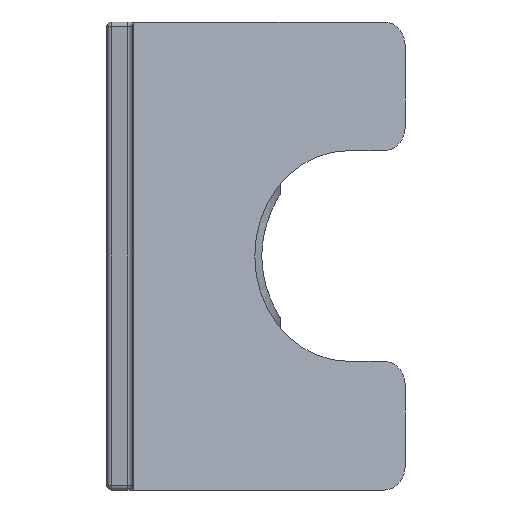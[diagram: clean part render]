
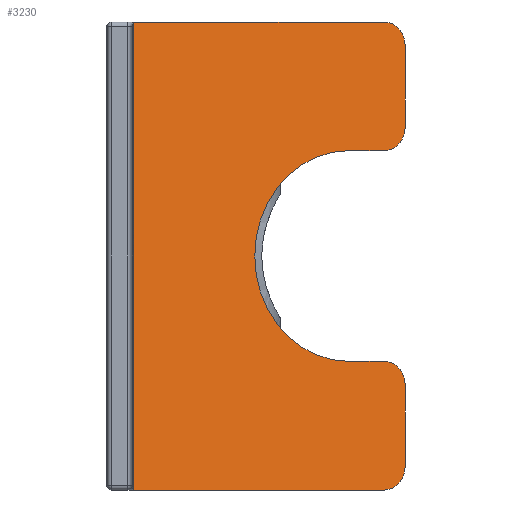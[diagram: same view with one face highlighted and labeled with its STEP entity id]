
A CAD part, left-side view. The second image highlights one B-rep face of the part: STEP entity #3230.
In plain terms, the highlighted planar face has unit normal (-0.892, -0.452, 0).
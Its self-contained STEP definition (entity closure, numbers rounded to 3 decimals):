
#3 = DIRECTION ( 'NONE',  ( -0.892, -0.452, 0. ) ) ;
#11 = ORIENTED_EDGE ( 'NONE', *, *, #1813, .T. ) ;
#149 = ORIENTED_EDGE ( 'NONE', *, *, #3276, .F. ) ;
#153 = DIRECTION ( 'NONE',  ( -0.452, 0.892, 0. ) ) ;
#167 = ORIENTED_EDGE ( 'NONE', *, *, #3681, .T. ) ;
#210 = VERTEX_POINT ( 'NONE', #2720 ) ;
#231 = VECTOR ( 'NONE', #1800, 1000. ) ;
#293 = CARTESIAN_POINT ( 'NONE',  ( -1.764, -12.742, 23.081 ) ) ;
#326 = VERTEX_POINT ( 'NONE', #1591 ) ;
#349 = CARTESIAN_POINT ( 'NONE',  ( -1.764, -12.742, -9. ) ) ;
#426 = VERTEX_POINT ( 'NONE', #349 ) ;
#432 = VECTOR ( 'NONE', #3235, 1000. ) ;
#441 = CARTESIAN_POINT ( 'NONE',  ( -2.216, -11.85, 5.5 ) ) ;
#444 = AXIS2_PLACEMENT_3D ( 'NONE', #3006, #3037, #3324 ) ;
#577 = DIRECTION ( 'NONE',  ( -0.452, 0.892, 0. ) ) ;
#648 = EDGE_CURVE ( 'NONE', #3313, #3218, #2801, .T. ) ;
#666 = EDGE_CURVE ( 'NONE', #2469, #3218, #3726, .T. ) ;
#683 = CARTESIAN_POINT ( 'NONE',  ( -2.216, -11.85, 9. ) ) ;
#786 = CARTESIAN_POINT ( 'NONE',  ( -1.764, -12.742, 9. ) ) ;
#809 = DIRECTION ( 'NONE',  ( -0.452, 0.892, 0. ) ) ;
#851 = LINE ( 'NONE', #1460, #432 ) ;
#860 = DIRECTION ( 'NONE',  ( 0.452, -0.892, 0. ) ) ;
#861 = CARTESIAN_POINT ( 'NONE',  ( -2.216, -11.85, -10. ) ) ;
#932 = DIRECTION ( 'NONE',  ( 0.452, -0.892, 0. ) ) ;
#978 = EDGE_CURVE ( 'NONE', #1480, #2723, #2433, .T. ) ;
#998 = VECTOR ( 'NONE', #2371, 1000. ) ;
#1001 = EDGE_CURVE ( 'NONE', #2998, #326, #2645, .T. ) ;
#1018 = DIRECTION ( 'NONE',  ( -0.452, 0.892, 0. ) ) ;
#1107 = LINE ( 'NONE', #3202, #1974 ) ;
#1150 = DIRECTION ( 'NONE',  ( -0.892, -0.452, 0. ) ) ;
#1171 = ORIENTED_EDGE ( 'NONE', *, *, #2197, .F. ) ;
#1217 = CARTESIAN_POINT ( 'NONE',  ( -2.216, -11.85, 10. ) ) ;
#1268 = CARTESIAN_POINT ( 'NONE',  ( -2.216, -11.85, -4.5 ) ) ;
#1460 = CARTESIAN_POINT ( 'NONE',  ( -1.764, -12.742, 4.5 ) ) ;
#1469 = CARTESIAN_POINT ( 'NONE',  ( -2.984, -10.333, -4.5 ) ) ;
#1480 = VERTEX_POINT ( 'NONE', #1541 ) ;
#1527 = AXIS2_PLACEMENT_3D ( 'NONE', #3269, #3, #3561 ) ;
#1541 = CARTESIAN_POINT ( 'NONE',  ( -7.639, -1.145, 10. ) ) ;
#1591 = CARTESIAN_POINT ( 'NONE',  ( -2.984, -10.333, -4.5 ) ) ;
#1674 = DIRECTION ( 'NONE',  ( 0., 0., -1. ) ) ;
#1709 = CIRCLE ( 'NONE', #3524, 1. ) ;
#1734 = VERTEX_POINT ( 'NONE', #1268 ) ;
#1755 = LINE ( 'NONE', #1469, #998 ) ;
#1775 = ORIENTED_EDGE ( 'NONE', *, *, #3733, .T. ) ;
#1798 = FACE_OUTER_BOUND ( 'NONE', #2610, .T. ) ;
#1800 = DIRECTION ( 'NONE',  ( 0., 0., -1. ) ) ;
#1808 = DIRECTION ( 'NONE',  ( -0.892, -0.452, 0. ) ) ;
#1810 = CARTESIAN_POINT ( 'NONE',  ( -2.984, -10.333, 4.5 ) ) ;
#1813 = EDGE_CURVE ( 'NONE', #1480, #3517, #1107, .T. ) ;
#1831 = AXIS2_PLACEMENT_3D ( 'NONE', #683, #1808, #809 ) ;
#1834 = LINE ( 'NONE', #2053, #2602 ) ;
#1960 = DIRECTION ( 'NONE',  ( 0., 0., -1. ) ) ;
#1974 = VECTOR ( 'NONE', #1674, 1000. ) ;
#2053 = CARTESIAN_POINT ( 'NONE',  ( -7.639, -1.145, -10. ) ) ;
#2093 = LINE ( 'NONE', #293, #231 ) ;
#2111 = CARTESIAN_POINT ( 'NONE',  ( -1.764, -12.742, 5.5 ) ) ;
#2143 = CIRCLE ( 'NONE', #1527, 1. ) ;
#2163 = VECTOR ( 'NONE', #1960, 1000. ) ;
#2186 = CARTESIAN_POINT ( 'NONE',  ( -7.639, -1.145, -10. ) ) ;
#2197 = EDGE_CURVE ( 'NONE', #3313, #2998, #851, .T. ) ;
#2211 = CARTESIAN_POINT ( 'NONE',  ( -1.764, -12.742, 23.081 ) ) ;
#2228 = AXIS2_PLACEMENT_3D ( 'NONE', #441, #2525, #1018 ) ;
#2371 = DIRECTION ( 'NONE',  ( 0.452, -0.892, 0. ) ) ;
#2390 = CARTESIAN_POINT ( 'NONE',  ( -7.639, -1.145, 10. ) ) ;
#2433 = LINE ( 'NONE', #2390, #3071 ) ;
#2469 = VERTEX_POINT ( 'NONE', #786 ) ;
#2525 = DIRECTION ( 'NONE',  ( -0.892, -0.452, 0. ) ) ;
#2602 = VECTOR ( 'NONE', #577, 1000. ) ;
#2610 = EDGE_LOOP ( 'NONE', ( #2853, #2730, #3101, #2885, #1171, #3237, #3756, #1775, #2881, #11, #149, #167 ) ) ;
#2645 = CIRCLE ( 'NONE', #2893, 4.5 ) ;
#2666 = EDGE_CURVE ( 'NONE', #210, #426, #2093, .T. ) ;
#2700 = PLANE ( 'NONE',  #444 ) ;
#2716 = CARTESIAN_POINT ( 'NONE',  ( -2.216, -11.85, 4.5 ) ) ;
#2720 = CARTESIAN_POINT ( 'NONE',  ( -1.764, -12.742, -5.5 ) ) ;
#2723 = VERTEX_POINT ( 'NONE', #1217 ) ;
#2730 = ORIENTED_EDGE ( 'NONE', *, *, #3298, .T. ) ;
#2789 = DIRECTION ( 'NONE',  ( -0.892, -0.452, 0. ) ) ;
#2801 = CIRCLE ( 'NONE', #2228, 1. ) ;
#2810 = CARTESIAN_POINT ( 'NONE',  ( -2.216, -11.85, -9. ) ) ;
#2853 = ORIENTED_EDGE ( 'NONE', *, *, #2666, .F. ) ;
#2860 = VERTEX_POINT ( 'NONE', #861 ) ;
#2881 = ORIENTED_EDGE ( 'NONE', *, *, #978, .F. ) ;
#2885 = ORIENTED_EDGE ( 'NONE', *, *, #1001, .F. ) ;
#2893 = AXIS2_PLACEMENT_3D ( 'NONE', #3304, #1150, #932 ) ;
#2998 = VERTEX_POINT ( 'NONE', #1810 ) ;
#3006 = CARTESIAN_POINT ( 'NONE',  ( -7.639, -1.145, 23.081 ) ) ;
#3037 = DIRECTION ( 'NONE',  ( 0.892, 0.452, 0. ) ) ;
#3038 = EDGE_CURVE ( 'NONE', #326, #1734, #1755, .T. ) ;
#3071 = VECTOR ( 'NONE', #860, 1000. ) ;
#3101 = ORIENTED_EDGE ( 'NONE', *, *, #3038, .F. ) ;
#3202 = CARTESIAN_POINT ( 'NONE',  ( -7.639, -1.145, 23.081 ) ) ;
#3218 = VERTEX_POINT ( 'NONE', #2111 ) ;
#3230 = ADVANCED_FACE ( 'NONE', ( #1798 ), #2700, .F. ) ;
#3235 = DIRECTION ( 'NONE',  ( -0.452, 0.892, 0. ) ) ;
#3237 = ORIENTED_EDGE ( 'NONE', *, *, #648, .T. ) ;
#3269 = CARTESIAN_POINT ( 'NONE',  ( -2.216, -11.85, -5.5 ) ) ;
#3276 = EDGE_CURVE ( 'NONE', #2860, #3517, #1834, .T. ) ;
#3298 = EDGE_CURVE ( 'NONE', #210, #1734, #2143, .T. ) ;
#3304 = CARTESIAN_POINT ( 'NONE',  ( -2.984, -10.333, 0. ) ) ;
#3313 = VERTEX_POINT ( 'NONE', #2716 ) ;
#3324 = DIRECTION ( 'NONE',  ( -0.452, 0.892, 0. ) ) ;
#3517 = VERTEX_POINT ( 'NONE', #2186 ) ;
#3524 = AXIS2_PLACEMENT_3D ( 'NONE', #2810, #2789, #153 ) ;
#3561 = DIRECTION ( 'NONE',  ( -0.452, 0.892, 0. ) ) ;
#3585 = CIRCLE ( 'NONE', #1831, 1. ) ;
#3681 = EDGE_CURVE ( 'NONE', #2860, #426, #1709, .T. ) ;
#3726 = LINE ( 'NONE', #2211, #2163 ) ;
#3733 = EDGE_CURVE ( 'NONE', #2469, #2723, #3585, .T. ) ;
#3756 = ORIENTED_EDGE ( 'NONE', *, *, #666, .F. ) ;
